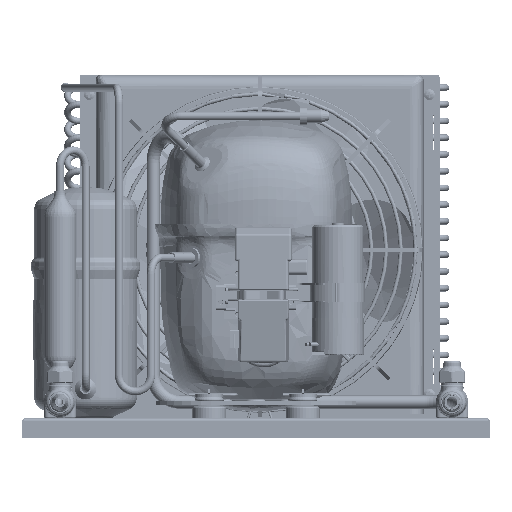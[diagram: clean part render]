
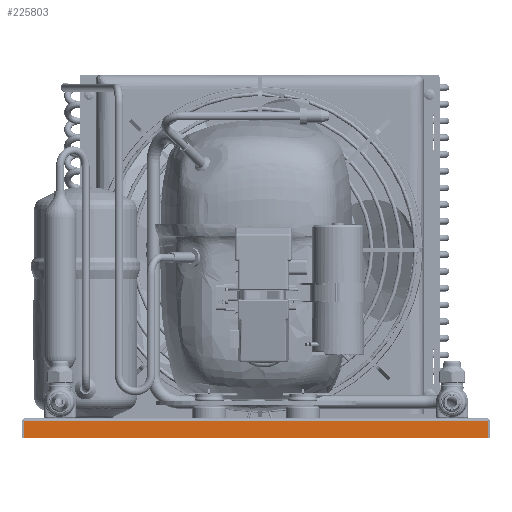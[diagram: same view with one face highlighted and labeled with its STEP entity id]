
A CAD part, front view. The second image highlights one B-rep face of the part: STEP entity #225803.
In plain terms, the highlighted planar face has unit normal (0, -1, 0).
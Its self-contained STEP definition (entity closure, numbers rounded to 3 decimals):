
#22344=LINE('',#487668,#37655);
#22349=LINE('',#487679,#37660);
#22351=LINE('',#487682,#37662);
#22356=LINE('',#487691,#37667);
#37655=VECTOR('',#340591,1000.);
#37660=VECTOR('',#340602,1000.);
#37662=VECTOR('',#340606,1000.);
#37667=VECTOR('',#340615,1000.);
#62343=ORIENTED_EDGE('',*,*,#125084,.F.);
#62344=ORIENTED_EDGE('',*,*,#125090,.F.);
#62345=ORIENTED_EDGE('',*,*,#125097,.T.);
#62346=ORIENTED_EDGE('',*,*,#125092,.T.);
#125084=EDGE_CURVE('',#157540,#157541,#22344,.T.);
#125090=EDGE_CURVE('',#157543,#157540,#22349,.T.);
#125092=EDGE_CURVE('',#157544,#157541,#22351,.T.);
#125097=EDGE_CURVE('',#157543,#157544,#22356,.T.);
#157540=VERTEX_POINT('',#487667);
#157541=VERTEX_POINT('',#487669);
#157543=VERTEX_POINT('',#487678);
#157544=VERTEX_POINT('',#487683);
#187535=EDGE_LOOP('',(#62343,#62344,#62345,#62346));
#204179=FACE_BOUND('',#187535,.T.);
#217944=PLANE('',#313808);
#225803=ADVANCED_FACE('',(#204179),#217944,.F.);
#313808=AXIS2_PLACEMENT_3D('',#487693,#340618,#340619);
#340591=DIRECTION('',(1.,0.,0.));
#340602=DIRECTION('',(0.,0.,1.));
#340606=DIRECTION('',(0.,0.,1.));
#340615=DIRECTION('',(1.,0.,0.));
#340618=DIRECTION('',(0.,1.,0.));
#340619=DIRECTION('',(0.,0.,1.));
#487667=CARTESIAN_POINT('',(-173.498,-225.,5.2));
#487668=CARTESIAN_POINT('',(-175.,-225.,5.2));
#487669=CARTESIAN_POINT('',(173.498,-225.,5.2));
#487678=CARTESIAN_POINT('',(-173.498,-225.,-7.5));
#487679=CARTESIAN_POINT('',(-173.498,-225.,7.5));
#487682=CARTESIAN_POINT('',(173.498,-225.,7.5));
#487683=CARTESIAN_POINT('',(173.498,-225.,-7.5));
#487691=CARTESIAN_POINT('',(-175.,-225.,-7.5));
#487693=CARTESIAN_POINT('',(-175.,-225.,7.5));
